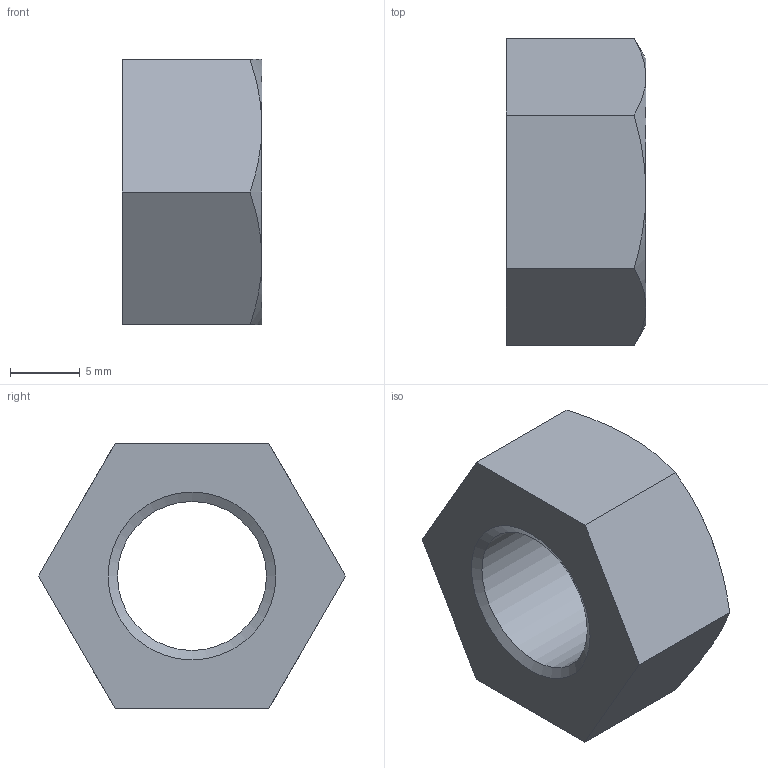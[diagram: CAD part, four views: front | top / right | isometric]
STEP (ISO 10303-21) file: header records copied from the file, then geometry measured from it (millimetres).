
FILE_DESCRIPTION(/* description */ ('6각 너트'),/* implementation_level */ '2;1');
FILE_NAME(/* name */ '',/* time_stamp */ '2024-08-02T13:51:07+09:00',/* author */ ('jhkim'),/* organization */ (''),/* preprocessor_version */ 'ST-DEVELOPER v20',/* originating_system */ 'Autodesk Inventor 2025',/* authorisation */ '');
FILE_SCHEMA (('AUTOMOTIVE_DESIGN { 1 0 10303 214 3 1 1 }'));
Length unit declared in the file: millimetre
Products named in the file (1): 너트 M12 x 1.25
Bounding box: 10 x 21.94 x 19 mm (x, y, z)
Volume: 2219.4 mm3; surface area: 1406.5 mm2
Topology: 1 solids, 1 shells, 17 faces, 38 edges, 23 vertices
Faces by surface type: cone 8, plane 8, cylinder 1
Full cylindrical faces by diameter (mm): 10.647 x1
Entity records: 502 total; most frequent: CARTESIAN_POINT 103, ORIENTED_EDGE 76, DIRECTION 73, EDGE_CURVE 38, AXIS2_PLACEMENT_3D 29, VERTEX_POINT 23, EDGE_LOOP 19, FACE_OUTER_BOUND 17
